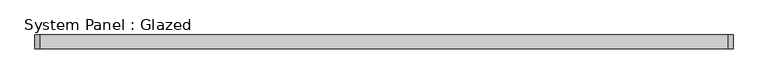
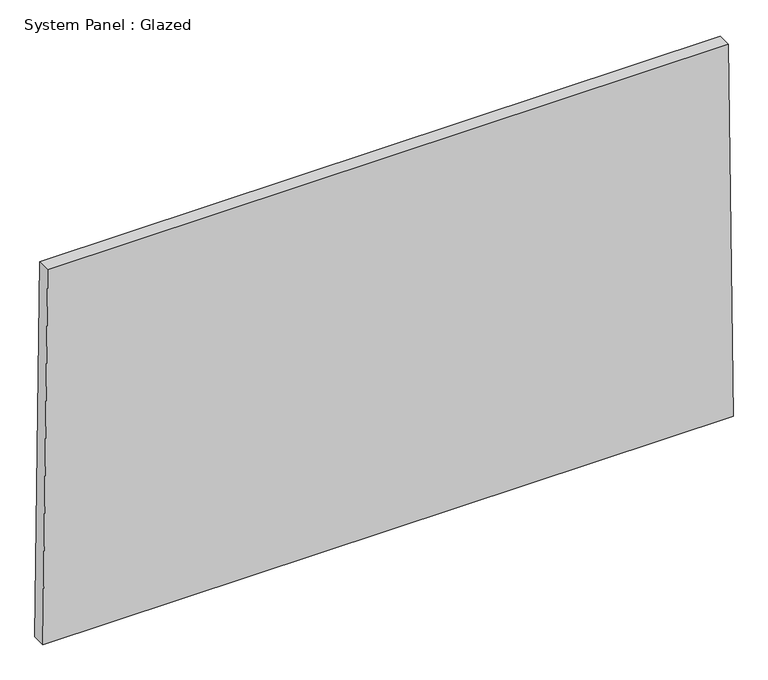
"""IFC4 building model written with IfcOpenShell, lengths in millimetres: plate geometry, System Panel : Glazed."""

from ifc_helpers import new_model, si_unit, frame, origin, place, context, project, spatial, polyline, outline, extrude, source, transform, mapped, element, save


def system_panel_glazed_d4e3dddd(model_context):
    return source(origin(), model_context, "Body", "SweptSolid", [
        extrude(outline(polyline([(0.0, -632.8935797), (0.0, 632.8935797), (723.8461495, 624.2875761), (723.8461495, -624.2875761), (0.0, -632.8935797)])), frame((0.0, 19.05, 0.0), z_axis=(0.0, 1.0, 0.0), x_axis=(0.0, 0.0, 1.0)), (0.0, 0.0, 1.0), 25.4),
    ])


if __name__ == "__main__":
    model = new_model("IFC4")
    model_context = context("Model", 3, world=origin())
    ifc_project = project(units=[si_unit("LENGTHUNIT", "METRE", prefix="MILLI")], contexts=[model_context])
    site = spatial("IfcSite", under=ifc_project)
    building = spatial("IfcBuilding", under=site)
    placement = place(None, origin())
    system_panel_glazed_shape = system_panel_glazed_d4e3dddd(model_context)
    element("IfcPlate", 1, ObjectType="System Panel : Glazed", at=placement, inside=building, context=model_context, shape_type="MappedRepresentation", body=[
        mapped(system_panel_glazed_shape, transform((0.0, 0.0, 0.0), x_axis=(1.0, 0.0, 0.0), y_axis=(0.0, 1.0, 0.0), z_axis=(0.0, 0.0, 1.0))),
    ])
    save(model, "model.ifc")
